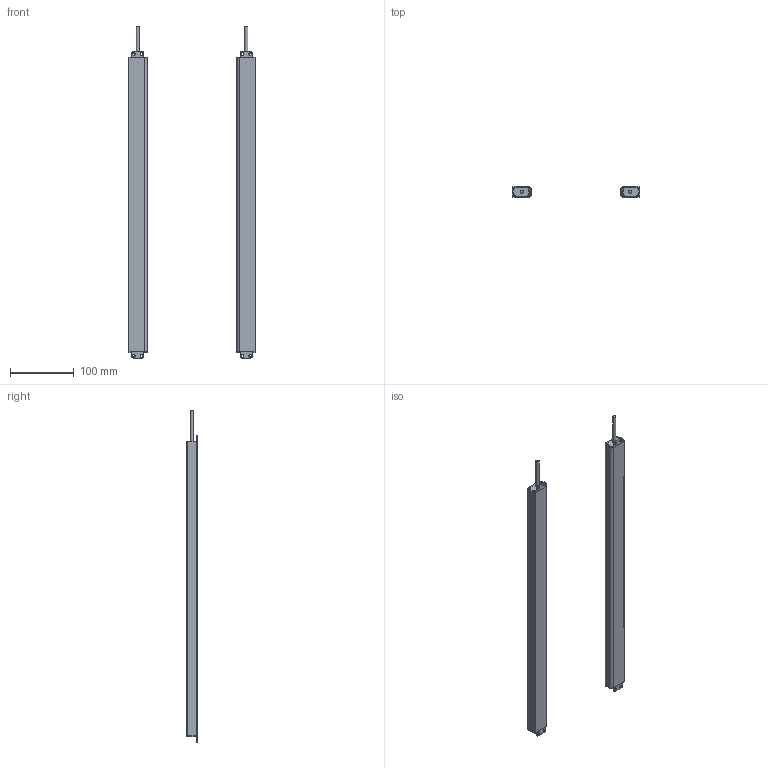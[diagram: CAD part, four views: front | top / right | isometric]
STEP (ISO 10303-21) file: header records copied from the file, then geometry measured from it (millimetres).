
FILE_DESCRIPTION(/* description */ (''),/* implementation_level */ '2;1');
FILE_NAME(/* name */ '4610（16X30w).stp',/* time_stamp */ '2020-07-23T13:59:23+08:00',/* author */ (''),/* organization */ (''),/* preprocessor_version */ 'ST-DEVELOPER v16',/* originating_system */ 'SIEMENS PLM Software NX 10.0',/* authorisation */ '');
FILE_SCHEMA (('AP203_CONFIGURATION_CONTROLLED_3D_DESIGN_OF_MECHANICAL_PARTS_AND_ASSEMBLIES_MIM_LF { 1 0 10303 403 2 1 2}'));
Length unit declared in the file: millimetre
Products named in the file (1): Admi1D6CCE1Dsrcj
Bounding box: 200 x 16 x 521.5 mm (x, y, z)
Volume: 134548.8 mm3; surface area: 199054 mm2
Topology: 10 solids, 10 shells, 296 faces, 830 edges, 554 vertices
Faces by surface type: plane 160, cylinder 136
Full cylindrical faces by diameter (mm): 5 x2
Entity records: 9760 total; most frequent: DIRECTION 1692, CARTESIAN_POINT 1675, ORIENTED_EDGE 1652, EDGE_CURVE 826, AXIS2_PLACEMENT_3D 569, LINE 554, VECTOR 554, VERTEX_POINT 552
